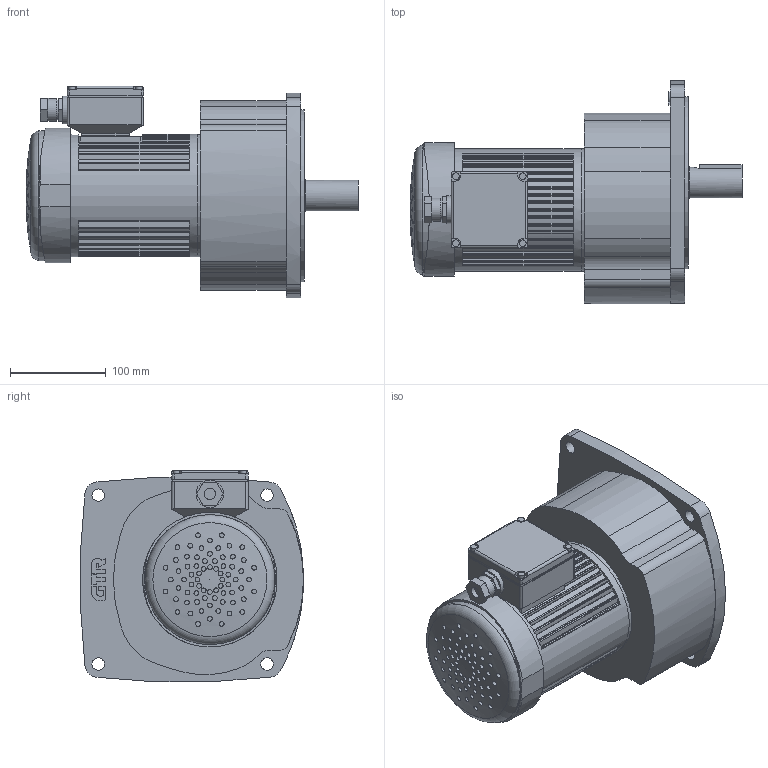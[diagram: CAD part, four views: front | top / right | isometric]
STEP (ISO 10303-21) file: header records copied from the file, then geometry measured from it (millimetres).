
FILE_DESCRIPTION( ( 'STEP AP203' ), ' ' );
FILE_NAME( 'p:/temp/worker_421/2372_356/app_60_02016063013543178824798192d056f_000000_00_00_000000/format_0/G3FW-32-100-T040E.stp', '2016-06-30T11:54:35', ( '' ), ( '' ), ' ', 'PARTsolutions', ' ' );
FILE_SCHEMA( ( 'CONFIG_CONTROL_DESIGN' ) );
Length unit declared in the file: millimetre
Products named in the file (7): G3FW-32-100-T040E; _GF32; _SP032G; HI_T040; HI_040MW; _E-BOX(aluminum)(T040); _KEY1-32
Assembly tree (6 placements, depth 2):
  G3FW-32-100-T040E
    _GF32
    _SP032G
    HI_T040
    HI_040MW
    _E-BOX(aluminum)(T040)
    _KEY1-32
Bounding box: 347.5 x 233.43 x 221.45 mm (x, y, z)
Volume: 6311924.6 mm3; surface area: 413573.2 mm2
Topology: 6 solids, 6 shells, 664 faces, 1664 edges, 1125 vertices
Faces by surface type: plane 335, cylinder 325, torus 3, sphere 1
Full cylindrical faces by diameter (mm): 5 x72, 7 x4, 12 x1, 13 x4, 21 x1, 24 x1, 29 x1, 32 x1, 34 x1, 88 x1, 128 x3, 136 x1, 168 x1, 180 x1
Entity records: 23702 total; most frequent: CARTESIAN_POINT 7940, DIRECTION 3410, ORIENTED_EDGE 2962, EDGE_CURVE 1481, AXIS2_PLACEMENT_3D 1343, VERTEX_POINT 1041, EDGE_LOOP 883, FACE_OUTER_BOUND 758
